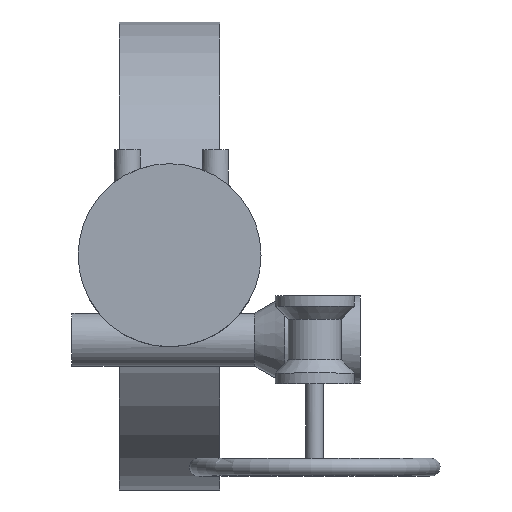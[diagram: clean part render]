
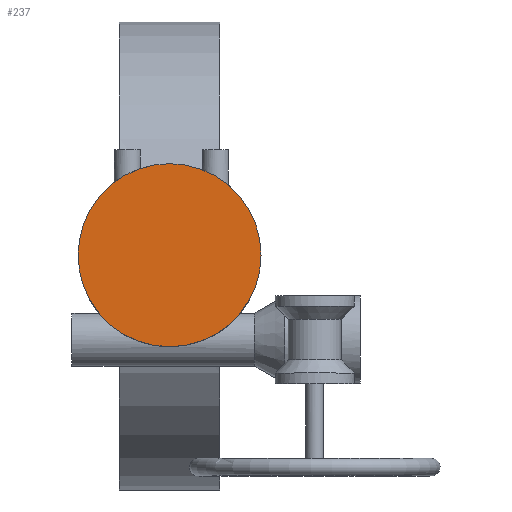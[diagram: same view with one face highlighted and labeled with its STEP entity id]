
A CAD part, top view. The second image highlights one B-rep face of the part: STEP entity #237.
In plain terms, the highlighted planar face has unit normal (0, 0, 1).
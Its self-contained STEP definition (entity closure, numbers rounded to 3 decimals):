
#237=ADVANCED_FACE('',(#7283),#7285,.T.);
#7283=FACE_BOUND('',#7284,.T.);
#7284=EDGE_LOOP('',(#12775));
#7285=PLANE('',#7286);
#7286=AXIS2_PLACEMENT_3D('',#7287,#7288,#7289);
#7287=CARTESIAN_POINT('',(0.,0.,527.));
#7288=DIRECTION('',(0.,0.,1.));
#7289=DIRECTION('',(0.,1.,0.));
#12775=ORIENTED_EDGE('',*,*,#17154,.T.);
#17154=EDGE_CURVE('',#19383,#19383,#19384,.T.);
#19383=VERTEX_POINT('',#23143);
#19384=CIRCLE('',#23144,104.);
#23143=CARTESIAN_POINT('',(0.,104.,527.));
#23144=AXIS2_PLACEMENT_3D('',#23145,#23146,#23147);
#23145=CARTESIAN_POINT('',(0.,0.,527.));
#23146=DIRECTION('',(0.,0.,1.));
#23147=DIRECTION('',(0.,1.,0.));
